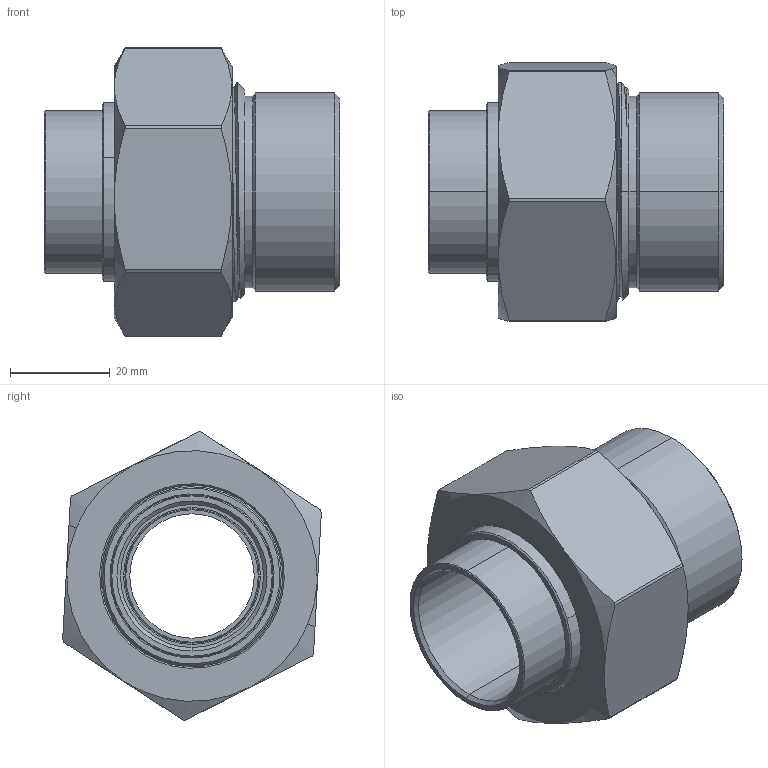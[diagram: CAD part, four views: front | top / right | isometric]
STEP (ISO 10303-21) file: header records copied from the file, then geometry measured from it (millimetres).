
FILE_DESCRIPTION (( 'STEP AP203' ), '1' );
FILE_NAME ('701-105.STEP', '2022-03-21T03:00:08', ( '' ), ( '' ), 'SwSTEP 2.0', 'SolidWorks 2012', '' );
FILE_SCHEMA (( 'CONFIG_CONTROL_DESIGN' ));
Length unit declared in the file: millimetre
Products named in the file (6): 肣杶; 701-105; 菜え; 呿蹋杶; 鞠褒簽; 囀挴諉芛
Assembly tree (5 placements, depth 2):
  701-105
    囀挴諉芛
    鞠褒簽
    菜え
    呿蹋杶
    肣杶
Bounding box: 59.3 x 52 x 57.94 mm (x, y, z)
Volume: 50025.9 mm3; surface area: 33664.9 mm2
Topology: 5 solids, 5 shells, 159 faces, 390 edges, 248 vertices
Faces by surface type: cone 63, cylinder 63, plane 25, bspline 6, torus 2
Entity records: 10245 total; most frequent: CARTESIAN_POINT 6081, ORIENTED_EDGE 780, DIRECTION 703, EDGE_CURVE 390, AXIS2_PLACEMENT_3D 283, VERTEX_POINT 248, EDGE_LOOP 176, FACE_OUTER_BOUND 159
